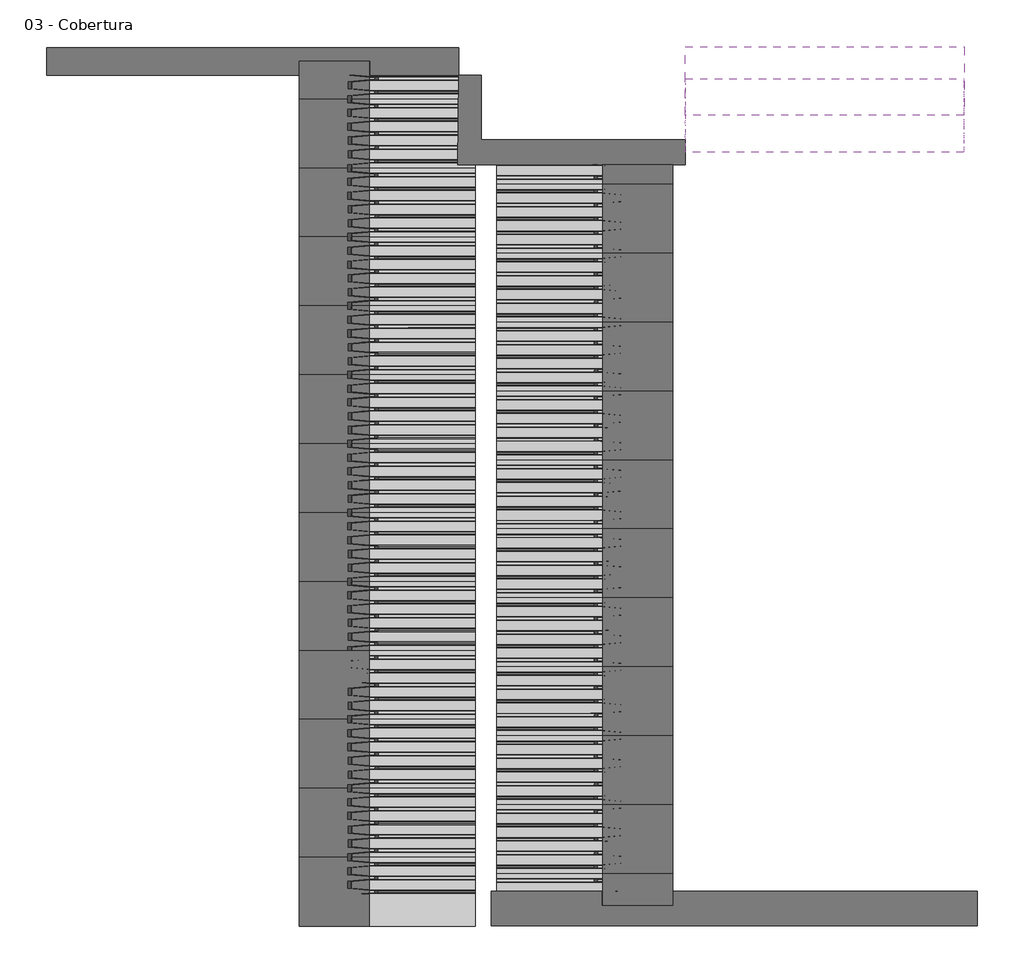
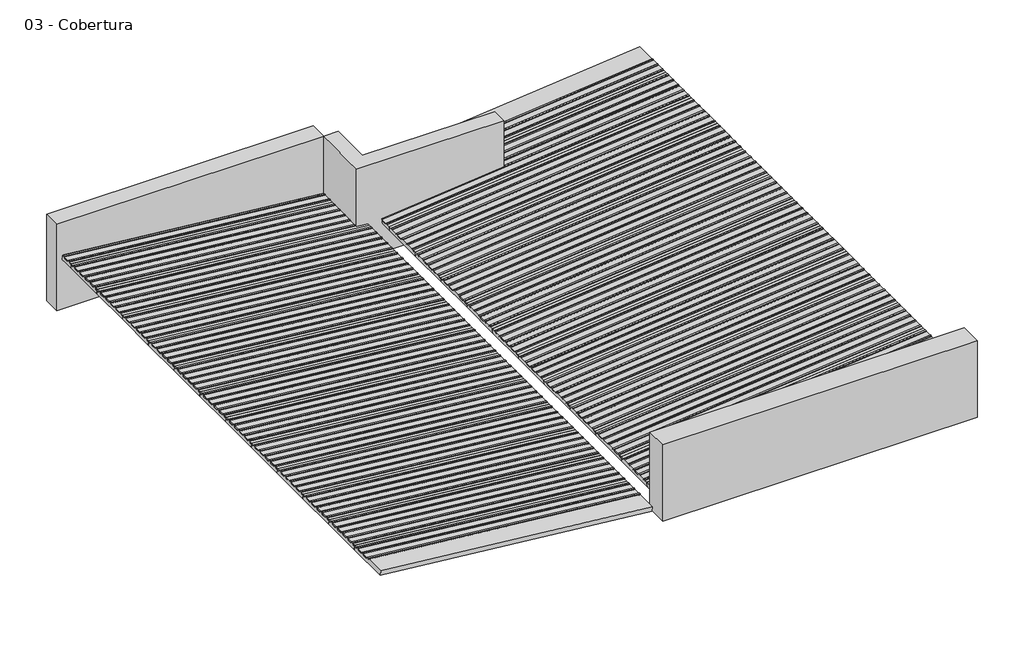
# One storey: 26 plates, 24 members, 3 proxies.
"""IFC4 building model written with IfcOpenShell, lengths in millimetres."""

from ifc_helpers import new_model, si_unit, frame, origin, place, context, project, spatial, polyline, outline, extrude, faceted_brep, transform, mapped, element, save
from components import rectangular_mullion_da0ee43c, rectangular_mullion_734f26e5, rectangular_mullion_4691f95d, empty_system_panel_vazio_dedfbf92, empty_system_panel_vazio_ec835984, empty_system_panel_vazio_4c0d4a5d, empty_system_panel_vazio_c402e9f3, empty_system_panel_vazio_1ed3ce67, empty_system_panel_vazio_27755461, empty_system_panel_vazio_4ffc9ecd, empty_system_panel_vazio_c31b6ba7

model = new_model("IFC4")

# Units and contexts
model_context = context("Model", 3, world=origin())
ifc_project = project(units=[si_unit("LENGTHUNIT", "METRE", prefix="MILLI")], contexts=[model_context])

# Site, building, storey
site = spatial("IfcSite", under=ifc_project)
building = spatial("IfcBuilding", under=site)
storey = spatial("IfcBuildingStorey", under=building, Name="03 - Cobertura", Elevation=5250.0)

# Proxies
placement = place(None, origin())
element("IfcBuildingElementProxy", 1, Name="Telha Metálica 04 : Telha Metálica 04", ObjectType="Telha Metálica 04 : Telha Metálica 04", at=placement, inside=storey, context=model_context, shape_type="SweptSolid", body=[
    extrude(outline(polyline([(35288.0559474, 12603.4881448), (35288.0559474, 12109.3390553), (28377.2522829, 12109.3390553), (28377.2522829, 12603.4881448), (35288.0559474, 12603.4881448)])), frame((0.0, 0.0, 5874.2276288), z_axis=(0.0, 0.0, 1.0), x_axis=(1.0, 0.0, 0.0)), (0.0, 0.0, 1.0), 1775.7723712),
])
element("IfcBuildingElementProxy", 2, Name="Telha Metálica 05 : Telha Metálica 05", ObjectType="Telha Metálica 05 : Telha Metálica 05", at=placement, inside=storey, context=model_context, shape_type="SweptSolid", body=[
    extrude(outline(polyline([(31135.4510067, 22933.0875158), (27896.5325969, 22933.0875158), (27911.4922793, 24203.2353441), (28231.4922793, 24203.2353441), (28231.4922793, 23283.2353441), (31135.4510067, 23283.2353441), (31135.4510067, 22933.0875158)])), frame((0.0, 0.0, 5525.9759325), z_axis=(0.0, 0.0, 1.0), x_axis=(1.0, 0.0, 0.0)), (0.0, 0.0, 1.0), 2124.0240675),
])
element("IfcBuildingElementProxy", 3, Name="Telha Metálica 12 : Telha Metálica 12", ObjectType="Telha Metálica 12 : Telha Metálica 12", at=placement, inside=storey, context=model_context, shape_type="SweptSolid", body=[
    extrude(outline(polyline([(27911.5028085, 24203.1812787), (22051.1496531, 24203.1812787), (22051.1496531, 24595.1469674), (27911.5028085, 24595.1469674), (27911.5028085, 24203.1812787)])), frame((0.0, 0.0, 5643.7783394), z_axis=(0.0, 0.0, 1.0), x_axis=(1.0, 0.0, 0.0)), (0.0, 0.0, 1.0), 2006.2216606),
])

# Members
element("IfcMember", 4, ObjectType="Rectangular Mullion : Telha Metálica - Trapezoidal", at=placement, inside=storey, context=model_context, shape_type="Brep", body=[
    faceted_brep([(22173.6255801, 23323.5556818, 6871.7592691), (22177.4096723, 23357.5225076, 6909.6001913), (22177.4124509, 23389.5224955, 6909.627978), (22175.4611164, 23407.0997222, 6890.1146322), (22175.1084678, 23403.5618279, 6886.5881462), (22176.9147384, 23387.2913076, 6904.6508527), (22176.912348, 23359.7624221, 6904.6269485), (22173.1282558, 23325.7955963, 6866.7860263), (22173.1195315, 23225.3245306, 6866.6987839), (22176.8977191, 23191.2913823, 6904.4806593), (22176.8953287, 23163.7624967, 6904.4567551), (22173.1112364, 23129.7956709, 6866.6158329), (22173.1025122, 23029.3246052, 6866.5285905), (22176.8806997, 22995.2914569, 6904.3104659), (22176.8783093, 22967.7625714, 6904.2865617), (22173.0942171, 22933.7957456, 6866.4456395), (22173.0854929, 22833.3246798, 6866.3583971), (22176.8636804, 22799.2915315, 6904.1402725), (22176.86129, 22771.762646, 6904.1163683), (22173.0771978, 22737.7958202, 6866.2754461), (22173.0684735, 22637.3247545, 6866.1882037), (22176.8466611, 22603.2916062, 6903.9700792), (22176.8442706, 22575.7627206, 6903.9461749), (22173.0601784, 22541.7958948, 6866.1052527), (22173.0514542, 22441.3248291, 6866.0180103), (22176.8296417, 22407.2916808, 6903.7998858), (22176.8272513, 22379.7627953, 6903.7759815), (22175.0202858, 22363.5430845, 6885.7063268), (22175.3723195, 22359.99901, 6889.2266632), (22177.3245756, 22377.5228808, 6908.7492243), (22177.3273542, 22409.5228686, 6908.777011), (22173.5491667, 22443.5560169, 6870.9951355), (22173.5575027, 22539.5559804, 6871.0784956), (22177.3415949, 22573.5228062, 6908.9194177), (22177.3443736, 22605.522794, 6908.9472044), (22173.566186, 22639.5559423, 6871.1653289), (22173.574522, 22735.5559057, 6871.248689), (22177.3586143, 22769.5227315, 6909.0896111), (22177.3613929, 22801.5227194, 6909.1173978), (22173.5832054, 22835.5558677, 6871.3355223), (22173.5915414, 22931.5558311, 6871.4188824), (22177.3756336, 22965.5226569, 6909.2598045), (22177.3784123, 22997.5226447, 6909.2875912), (22173.6002247, 23031.555793, 6871.5057157), (22173.6085607, 23127.5557565, 6871.5890757), (22177.3926529, 23161.5225823, 6909.4299979), (22177.3954316, 23193.5225701, 6909.4577846), (22173.6172441, 23227.5557184, 6871.6759091), (28143.5915414, 22931.5558311, 6274.4188824), (28143.5832054, 22835.5558677, 6274.3355223), (28147.3613929, 22801.5227194, 6312.1173978), (28147.3586143, 22769.5227315, 6312.0896111), (28143.574522, 22735.5559057, 6274.248689), (28143.566186, 22639.5559423, 6274.1653289), (28147.3443736, 22605.522794, 6311.9472044), (28147.3415949, 22573.5228062, 6311.9194177), (28143.5575027, 22539.5559804, 6274.0784956), (28143.5491667, 22443.5560169, 6273.9951355), (28147.3273542, 22409.5228686, 6311.777011), (28147.3245756, 22377.5228808, 6311.7492243), (28145.3723195, 22359.99901, 6292.2266632), (28145.0202858, 22363.5430845, 6288.7063268), (28146.8272513, 22379.7627953, 6306.7759815), (28146.8296417, 22407.2916808, 6306.7998858), (28143.0514542, 22441.3248291, 6269.0180103), (28143.0601784, 22541.7958948, 6269.1052527), (28146.8442706, 22575.7627206, 6306.9461749), (28146.8466611, 22603.2916062, 6306.9700792), (28143.0684735, 22637.3247545, 6269.1882037), (28143.0771978, 22737.7958202, 6269.2754461), (28146.86129, 22771.762646, 6307.1163683), (28146.8636804, 22799.2915315, 6307.1402725), (28143.0854929, 22833.3246798, 6269.3583971), (28143.0941556, 22933.0875158, 6269.4450245), (28143.7621795, 22933.0875158, 6276.1252638), (27901.1314944, 23323.5556818, 6299.0086777), (27901.5315525, 23357.5225076, 6337.1880033), (27901.9084454, 23389.5224955, 6337.1783786), (27902.1154683, 23407.0997222, 6317.449197), (27902.0737993, 23403.5618279, 6313.8916131), (27901.8821667, 23387.2913076, 6332.1541099), (27901.557934, 23359.7624221, 6332.1623899), (27901.1578759, 23325.7955963, 6293.9830643), (27899.9745371, 23225.3245306, 6294.0132833), (27899.5736979, 23191.2913823, 6332.2130615), (27899.2494652, 23163.7624967, 6332.2213414), (27898.8494071, 23129.7956709, 6294.0420158), (27897.6660683, 23029.3246052, 6294.0722348), (27897.2652291, 22995.2914569, 6332.272013), (27896.9409964, 22967.7625714, 6332.280293), (27896.5409383, 22933.7957456, 6294.1009674), (27896.5325969, 22933.0875158, 6294.1011804), (27896.5325969, 22933.0875158, 6300.8482221), (27896.9146149, 22965.5226569, 6337.3059064), (27897.2915078, 22997.5226447, 6337.2962817), (27897.692347, 23031.555793, 6299.0965035), (27898.8230256, 23127.5557565, 6299.0676293), (27899.2230837, 23161.5225823, 6337.2469548), (27899.5999766, 23193.5225701, 6337.2373301), (27900.0008158, 23227.5557184, 6299.0375519)], [[[0, 1, 2, 3, 4, 5, 6, 7, 8, 9, 10, 11, 12, 13, 14, 15, 16, 17, 18, 19, 20, 21, 22, 23, 24, 25, 26, 27, 28, 29, 30, 31, 32, 33, 34, 35, 36, 37, 38, 39, 40, 41, 42, 43, 44, 45, 46, 47]], [[48, 49, 50, 51, 52, 53, 54, 55, 56, 57, 58, 59, 60, 61, 62, 63, 64, 65, 66, 67, 68, 69, 70, 71, 72, 73, 74]], [[1, 0, 75, 76]], [[2, 1, 76, 77]], [[3, 2, 77, 78]], [[4, 3, 78, 79]], [[5, 4, 79, 80]], [[6, 5, 80, 81]], [[7, 6, 81, 82]], [[8, 7, 82, 83]], [[9, 8, 83, 84]], [[10, 9, 84, 85]], [[11, 10, 85, 86]], [[12, 11, 86, 87]], [[13, 12, 87, 88]], [[14, 13, 88, 89]], [[15, 14, 89, 90]], [[16, 15, 90, 91, 73, 72]], [[17, 16, 72, 71]], [[18, 17, 71, 70]], [[19, 18, 70, 69]], [[20, 19, 69, 68]], [[21, 20, 68, 67]], [[22, 21, 67, 66]], [[23, 22, 66, 65]], [[24, 23, 65, 64]], [[25, 24, 64, 63]], [[26, 25, 63, 62]], [[27, 26, 62, 61]], [[28, 27, 61, 60]], [[29, 28, 60, 59]], [[30, 29, 59, 58]], [[31, 30, 58, 57]], [[32, 31, 57, 56]], [[33, 32, 56, 55]], [[34, 33, 55, 54]], [[35, 34, 54, 53]], [[36, 35, 53, 52]], [[37, 36, 52, 51]], [[38, 37, 51, 50]], [[39, 38, 50, 49]], [[40, 39, 49, 48]], [[41, 40, 48, 74, 92, 93]], [[42, 41, 93, 94]], [[43, 42, 94, 95]], [[44, 43, 95, 96]], [[45, 44, 96, 97]], [[46, 45, 97, 98]], [[47, 46, 98, 99]], [[0, 47, 99, 75]], [[92, 91, 90, 89, 88, 87, 86, 85, 84, 83, 82, 81, 80, 79, 78, 77, 76, 75, 99, 98, 97, 96, 95, 94, 93]], [[91, 92, 74, 73]]]),
])
element("IfcMember", 5, ObjectType="Rectangular Mullion : Telha Metálica - Trapezoidal", at=placement, inside=storey, context=model_context, shape_type="Brep", body=[
    faceted_brep([(35095.5800205, 22211.4555207, 6938.4498986), (35091.7959283, 22177.4886949, 6976.2908207), (35091.7931496, 22145.4887071, 6976.3186074), (35093.7444842, 22127.9114804, 6956.8052616), (35094.0971328, 22131.4493747, 6953.2787757), (35092.2908622, 22147.7198949, 6971.3414822), (35092.2932526, 22175.2487805, 6971.3175779), (35096.0773448, 22209.2156063, 6933.4766557), (35096.0860691, 22309.686672, 6933.3894133), (35092.3078815, 22343.7198203, 6971.1712888), (35092.3102719, 22371.2487058, 6971.1473845), (35096.0943642, 22405.2155316, 6933.3064623), (35096.1030884, 22505.6865974, 6933.2192199), (35092.3249009, 22539.7197457, 6971.0010954), (35092.3272913, 22567.2486312, 6970.9771911), (35096.1113835, 22601.215457, 6933.1362689), (35096.1201077, 22701.6865227, 6933.0490265), (35092.3419202, 22735.719671, 6970.830902), (35092.3443106, 22763.2485566, 6970.8069977), (35096.1284028, 22797.2153824, 6932.9660755), (35096.1371271, 22897.6864481, 6932.8788331), (35092.3589395, 22931.7195964, 6970.6607086), (35092.36133, 22959.2484819, 6970.6368043), (35096.1454222, 22993.2153077, 6932.7958821), (35096.1541464, 23093.6863735, 6932.7086397), (35092.3759589, 23127.7195218, 6970.4905152), (35092.3783493, 23155.2484073, 6970.4666109), (35094.1853148, 23171.4681181, 6952.3969562), (35093.8332811, 23175.0121926, 6955.9172927), (35091.881025, 23157.4883218, 6975.4398538), (35091.8782463, 23125.4883339, 6975.4676405), (35095.6564339, 23091.4551856, 6937.685765), (35095.6480979, 22995.4552222, 6937.769125), (35091.8640057, 22961.4883964, 6975.6100472), (35091.861227, 22929.4884086, 6975.6378338), (35095.6394146, 22895.4552603, 6937.8559584), (35095.6310786, 22799.4552968, 6937.9393184), (35091.8469863, 22765.488471, 6975.7802406), (35091.8442077, 22733.4884832, 6975.8080272), (35095.6223952, 22699.4553349, 6938.0261518), (35095.6140592, 22603.4553715, 6938.1095118), (35091.829967, 22569.4885457, 6975.950434), (35091.8271883, 22537.4885578, 6975.9782206), (35095.6053759, 22503.4554095, 6938.1963451), (35095.5970399, 22407.4554461, 6938.2797052), (35091.8129477, 22373.4886203, 6976.1206274), (35091.810169, 22341.4886325, 6976.148414), (35095.5883565, 22307.4554842, 6938.3665385), (28458.6737262, 22211.4555207, 6274.7592691), (28458.6820622, 22307.4554842, 6274.6759091), (28454.9038747, 22341.4886325, 6312.4577846), (28454.9066534, 22373.4886203, 6312.4299979), (28458.6907456, 22407.4554461, 6274.5890757), (28458.6990816, 22503.4554095, 6274.5057157), (28454.920894, 22537.4885578, 6312.2875912), (28454.9236727, 22569.4885457, 6312.2598045), (28458.7077649, 22603.4553715, 6274.4188824), (28458.7161009, 22699.4553349, 6274.3355223), (28454.9379134, 22733.4884832, 6312.1173978), (28454.940692, 22765.488471, 6312.0896111), (28458.7247843, 22799.4552968, 6274.248689), (28458.7331203, 22895.4552603, 6274.1653289), (28454.9549327, 22929.4884086, 6311.9472044), (28454.9552452, 22933.0875158, 6311.9440792), (28455.452764, 22933.0875158, 6306.9688913), (28455.4526452, 22931.7195964, 6306.9700792), (28459.2308328, 22897.6864481, 6269.1882037), (28459.2221085, 22797.2153824, 6269.2754461), (28455.4380163, 22763.2485566, 6307.1163683), (28455.4356259, 22735.719671, 6307.1402725), (28459.2138134, 22701.6865227, 6269.3583971), (28459.2050892, 22601.215457, 6269.4456395), (28455.420997, 22567.2486312, 6307.2865617), (28455.4186066, 22539.7197457, 6307.3104659), (28459.1967941, 22505.6865974, 6269.5285905), (28459.1880699, 22405.2155316, 6269.6158329), (28455.4039776, 22371.2487058, 6307.4567551), (28455.4015872, 22343.7198203, 6307.4806593), (28459.1797748, 22309.686672, 6269.6987839), (28459.1710505, 22209.2156063, 6269.7860263), (28455.3869583, 22175.2487805, 6307.6269485), (28455.3845679, 22147.7198949, 6307.6508527), (28457.1908385, 22131.4493747, 6289.5881462), (28456.8381899, 22127.9114804, 6293.1146322), (28454.8868553, 22145.4887071, 6312.627978), (28454.889634, 22177.4886949, 6312.6001913), (31135.4510067, 22933.0875158, 6574.9687156), (31135.4510067, 22959.2484819, 6574.945772), (31135.4510067, 22993.2153077, 6536.7264406), (31135.4510067, 23093.6863735, 6536.6383257), (31135.4510067, 23127.7195218, 6574.79802), (31135.4510067, 23155.2484073, 6574.7738767), (31135.4510067, 23171.4681181, 6556.5235254), (31135.4510067, 23175.0121926, 6560.0790652), (31135.4510067, 23157.4883218, 6579.7968519), (31135.4510067, 23125.4883339, 6579.8249165), (31135.4510067, 23091.4551856, 6541.6652222), (31135.4510067, 22995.4552222, 6541.7494159), (31135.4510067, 22961.4883964, 6579.9687473), (31135.4510067, 22933.0875158, 6579.9936553)], [[[0, 1, 2, 3, 4, 5, 6, 7, 8, 9, 10, 11, 12, 13, 14, 15, 16, 17, 18, 19, 20, 21, 22, 23, 24, 25, 26, 27, 28, 29, 30, 31, 32, 33, 34, 35, 36, 37, 38, 39, 40, 41, 42, 43, 44, 45, 46, 47]], [[48, 49, 50, 51, 52, 53, 54, 55, 56, 57, 58, 59, 60, 61, 62, 63, 64, 65, 66, 67, 68, 69, 70, 71, 72, 73, 74, 75, 76, 77, 78, 79, 80, 81, 82, 83, 84, 85]], [[1, 0, 48, 85]], [[2, 1, 85, 84]], [[3, 2, 84, 83]], [[4, 3, 83, 82]], [[5, 4, 82, 81]], [[6, 5, 81, 80]], [[7, 6, 80, 79]], [[8, 7, 79, 78]], [[9, 8, 78, 77]], [[10, 9, 77, 76]], [[11, 10, 76, 75]], [[12, 11, 75, 74]], [[13, 12, 74, 73]], [[14, 13, 73, 72]], [[15, 14, 72, 71]], [[16, 15, 71, 70]], [[17, 16, 70, 69]], [[18, 17, 69, 68]], [[19, 18, 68, 67]], [[20, 19, 67, 66]], [[21, 20, 66, 65]], [[22, 21, 65, 64, 86, 87]], [[23, 22, 87, 88]], [[24, 23, 88, 89]], [[25, 24, 89, 90]], [[26, 25, 90, 91]], [[27, 26, 91, 92]], [[28, 27, 92, 93]], [[29, 28, 93, 94]], [[30, 29, 94, 95]], [[31, 30, 95, 96]], [[32, 31, 96, 97]], [[33, 32, 97, 98]], [[34, 33, 98, 99, 63, 62]], [[35, 34, 62, 61]], [[36, 35, 61, 60]], [[37, 36, 60, 59]], [[38, 37, 59, 58]], [[39, 38, 58, 57]], [[40, 39, 57, 56]], [[41, 40, 56, 55]], [[42, 41, 55, 54]], [[43, 42, 54, 53]], [[44, 43, 53, 52]], [[45, 44, 52, 51]], [[46, 45, 51, 50]], [[47, 46, 50, 49]], [[0, 47, 49, 48]], [[86, 99, 98, 97, 96, 95, 94, 93, 92, 91, 90, 89, 88, 87]], [[99, 86, 64, 63]]]),
])
element("IfcMember", 6, ObjectType="Rectangular Mullion : Telha Metálica - Trapezoidal", at=placement, inside=storey, context=model_context, shape_type="SweptSolid", body=[
    extrude(outline(polyline([(-310.0330432, -564.4513416), (-278.0330554, -564.4792669), (-244.0662296, -602.5089231), (-148.0662661, -602.5926988), (-114.0331178, -564.6223839), (-82.03313, -564.6503092), (-48.0663042, -602.6799653), (47.9336592, -602.7637411), (81.9668075, -564.7934261), (113.9667954, -564.8213514), (147.9336212, -602.8510076), (243.9335846, -602.9347833), (277.9667329, -564.9644684), (309.9667207, -564.9923937), (343.9335465, -603.0220498), (439.93351, -603.1058256), (473.9666583, -565.1355106), (505.9666461, -565.1634359), (523.4905169, -584.783367), (519.9464424, -588.3212613), (503.7267316, -570.1614831), (476.1978461, -570.1374597), (442.1646978, -608.1077746), (341.6936321, -608.020097), (307.7268063, -569.9904408), (280.1979207, -569.9664174), (246.1647724, -607.9367324), (145.6937067, -607.8490547), (111.7268809, -569.8193986), (84.1979954, -569.7953752), (50.1648471, -607.7656901), (-50.3062187, -607.6780125), (-84.2730445, -569.6483564), (-111.80193, -569.6243329), (-145.8350783, -607.5946479), (-246.306144, -607.5069702), (-280.2729698, -569.4773142), (-307.8018554, -569.4532907), (-339.6917518, -605.032409), (-339.6917518, -597.5411545), (-310.0330432, -564.4513416)])), frame((27963.8810416, 23863.4895269, 6898.0758014), z_axis=(-0.9950371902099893, 0.0, 0.09950371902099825), x_axis=(0.0, -1.0, 0.0)), (0.0, 0.0, 1.0), 5758.9009322),
])
element("IfcMember", 7, ObjectType="Rectangular Mullion : Telha Metálica - Trapezoidal", at=placement, inside=storey, context=model_context, shape_type="SweptSolid", body=[
    extrude(outline(polyline([(-244.0662296, -602.5089231), (-148.0662662, -602.5926988), (-114.0331179, -564.6223839), (-82.03313, -564.6503092), (-48.0663042, -602.6799652), (47.9336592, -602.7637411), (81.9668075, -564.7934261), (113.9667953, -564.8213514), (147.9336211, -602.8510075), (243.9335846, -602.9347833), (277.9667329, -564.9644684), (309.9667207, -564.9923937), (343.9335465, -603.0220497), (439.9335099, -603.1058256), (473.9666582, -565.1355106), (505.9666461, -565.1634359), (523.4905169, -584.783367), (519.9464424, -588.3212613), (503.7267316, -570.1614831), (476.1978461, -570.1374596), (442.1646978, -608.1077745), (341.693632, -608.020097), (307.7268062, -569.9904408), (280.1979207, -569.9664173), (246.1647724, -607.9367323), (145.6937067, -607.8490547), (111.7268809, -569.8193986), (84.1979953, -569.7953752), (50.164847, -607.76569), (-50.3062187, -607.6780125), (-84.2730445, -569.6483563), (-111.80193, -569.6243329), (-145.8350783, -607.5946478), (-246.3061441, -607.5069702), (-248.0335309, -605.5729677), (-248.0335309, -598.067086), (-244.0662296, -602.5089231)])), frame((28398.738867, 12851.5216757, 6874.1078616), z_axis=(0.9950371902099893, 0.0, 0.09950371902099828), x_axis=(0.0, 1.0, 0.0)), (0.0, 0.0, 1.0), 6670.0082767),
])
rectangular_mullion_shape = rectangular_mullion_da0ee43c(model_context)
element("IfcMember", 8, ObjectType="Rectangular Mullion : Telha Metálica - Trapezoidal", at=placement, inside=storey, context=model_context, shape_type="MappedRepresentation", body=[
    mapped(rectangular_mullion_shape, transform((22181.1496531, 13083.4895269, 6947.0), x_axis=(0.0, 1.0, 0.0), y_axis=(-0.09950371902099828, 0.0, -0.9950371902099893), z_axis=(-0.9950371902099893, 0.0, 0.09950371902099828))),
])
element("IfcMember", 9, ObjectType="Rectangular Mullion : Telha Metálica - Trapezoidal", at=placement, inside=storey, context=model_context, shape_type="MappedRepresentation", body=[
    mapped(rectangular_mullion_shape, transform((22181.1496531, 14063.4895269, 6947.0), x_axis=(0.0, 1.0, 0.0), y_axis=(-0.09950371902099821, 0.0, -0.9950371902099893), z_axis=(-0.9950371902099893, 0.0, 0.09950371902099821))),
])
element("IfcMember", 10, ObjectType="Rectangular Mullion : Telha Metálica - Trapezoidal", at=placement, inside=storey, context=model_context, shape_type="MappedRepresentation", body=[
    mapped(rectangular_mullion_shape, transform((22181.1496531, 15043.4895269, 6947.0), x_axis=(0.0, 1.0, 0.0), y_axis=(-0.09950371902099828, 0.0, -0.9950371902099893), z_axis=(-0.9950371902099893, 0.0, 0.09950371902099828))),
])
element("IfcMember", 11, ObjectType="Rectangular Mullion : Telha Metálica - Trapezoidal", at=placement, inside=storey, context=model_context, shape_type="MappedRepresentation", body=[
    mapped(rectangular_mullion_shape, transform((22181.1496531, 16023.4895269, 6947.0), x_axis=(0.0, 1.0, 0.0), y_axis=(-0.09950371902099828, 0.0, -0.9950371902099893), z_axis=(-0.9950371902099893, 0.0, 0.09950371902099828))),
])
element("IfcMember", 12, ObjectType="Rectangular Mullion : Telha Metálica - Trapezoidal", at=placement, inside=storey, context=model_context, shape_type="MappedRepresentation", body=[
    mapped(rectangular_mullion_shape, transform((22181.1496531, 17003.4895269, 6947.0), x_axis=(0.0, 1.0, 0.0), y_axis=(-0.09950371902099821, 0.0, -0.9950371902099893), z_axis=(-0.9950371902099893, 0.0, 0.09950371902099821))),
])
element("IfcMember", 13, ObjectType="Rectangular Mullion : Telha Metálica - Trapezoidal", at=placement, inside=storey, context=model_context, shape_type="MappedRepresentation", body=[
    mapped(rectangular_mullion_shape, transform((22181.1496531, 17983.4895269, 6947.0), x_axis=(0.0, 1.0, 0.0), y_axis=(-0.09950371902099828, 0.0, -0.9950371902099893), z_axis=(-0.9950371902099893, 0.0, 0.09950371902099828))),
])
element("IfcMember", 14, ObjectType="Rectangular Mullion : Telha Metálica - Trapezoidal", at=placement, inside=storey, context=model_context, shape_type="MappedRepresentation", body=[
    mapped(rectangular_mullion_shape, transform((22181.1496531, 18963.4895269, 6947.0), x_axis=(0.0, 1.0, 0.0), y_axis=(-0.09950371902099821, 0.0, -0.9950371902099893), z_axis=(-0.9950371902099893, 0.0, 0.09950371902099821))),
])
element("IfcMember", 15, ObjectType="Rectangular Mullion : Telha Metálica - Trapezoidal", at=placement, inside=storey, context=model_context, shape_type="MappedRepresentation", body=[
    mapped(rectangular_mullion_shape, transform((22181.1496531, 19943.4895269, 6947.0), x_axis=(0.0, 1.0, 0.0), y_axis=(-0.09950371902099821, 0.0, -0.9950371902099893), z_axis=(-0.9950371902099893, 0.0, 0.09950371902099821))),
])
element("IfcMember", 16, ObjectType="Rectangular Mullion : Telha Metálica - Trapezoidal", at=placement, inside=storey, context=model_context, shape_type="MappedRepresentation", body=[
    mapped(rectangular_mullion_shape, transform((22181.1496531, 20923.4895269, 6947.0), x_axis=(0.0, 1.0, 0.0), y_axis=(-0.09950371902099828, 0.0, -0.9950371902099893), z_axis=(-0.9950371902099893, 0.0, 0.09950371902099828))),
])
element("IfcMember", 17, ObjectType="Rectangular Mullion : Telha Metálica - Trapezoidal", at=placement, inside=storey, context=model_context, shape_type="MappedRepresentation", body=[
    mapped(rectangular_mullion_shape, transform((22181.1496531, 21903.4895269, 6947.0), x_axis=(0.0, 1.0, 0.0), y_axis=(-0.09950371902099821, 0.0, -0.9950371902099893), z_axis=(-0.9950371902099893, 0.0, 0.09950371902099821))),
])
rectangular_mullion_2_shape = rectangular_mullion_734f26e5(model_context)
element("IfcMember", 18, ObjectType="Rectangular Mullion : Telha Metálica - Trapezoidal", at=placement, inside=storey, context=model_context, shape_type="MappedRepresentation", body=[
    mapped(rectangular_mullion_2_shape, transform((35088.0559474, 21671.5216757, 7013.6906294), x_axis=(0.0, -1.0, 0.0), y_axis=(0.09950371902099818, 0.0, -0.9950371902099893), z_axis=(0.9950371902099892, 0.0, 0.09950371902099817))),
])
element("IfcMember", 19, ObjectType="Rectangular Mullion : Telha Metálica - Trapezoidal", at=placement, inside=storey, context=model_context, shape_type="MappedRepresentation", body=[
    mapped(rectangular_mullion_2_shape, transform((35088.0559474, 20691.5216757, 7013.6906294), x_axis=(0.0, -1.0, 0.0), y_axis=(0.09950371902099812, 0.0, -0.9950371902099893), z_axis=(0.9950371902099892, 0.0, 0.09950371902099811))),
])
element("IfcMember", 20, ObjectType="Rectangular Mullion : Telha Metálica - Trapezoidal", at=placement, inside=storey, context=model_context, shape_type="MappedRepresentation", body=[
    mapped(rectangular_mullion_2_shape, transform((35088.0559474, 19711.5216757, 7013.6906294), x_axis=(0.0, -1.0, 0.0), y_axis=(0.09950371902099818, 0.0, -0.9950371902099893), z_axis=(0.9950371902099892, 0.0, 0.09950371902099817))),
])
element("IfcMember", 21, ObjectType="Rectangular Mullion : Telha Metálica - Trapezoidal", at=placement, inside=storey, context=model_context, shape_type="MappedRepresentation", body=[
    mapped(rectangular_mullion_2_shape, transform((35088.0559474, 18731.5216757, 7013.6906294), x_axis=(0.0, -1.0, 0.0), y_axis=(0.09950371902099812, 0.0, -0.9950371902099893), z_axis=(0.9950371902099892, 0.0, 0.09950371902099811))),
])
element("IfcMember", 22, ObjectType="Rectangular Mullion : Telha Metálica - Trapezoidal", at=placement, inside=storey, context=model_context, shape_type="MappedRepresentation", body=[
    mapped(rectangular_mullion_2_shape, transform((35088.0559474, 17751.5216757, 7013.6906294), x_axis=(0.0, -1.0, 0.0), y_axis=(0.09950371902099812, 0.0, -0.9950371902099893), z_axis=(0.9950371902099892, 0.0, 0.09950371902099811))),
])
element("IfcMember", 23, ObjectType="Rectangular Mullion : Telha Metálica - Trapezoidal", at=placement, inside=storey, context=model_context, shape_type="MappedRepresentation", body=[
    mapped(rectangular_mullion_2_shape, transform((35088.0559474, 16771.5216757, 7013.6906294), x_axis=(0.0, -1.0, 0.0), y_axis=(0.09950371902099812, 0.0, -0.9950371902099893), z_axis=(0.9950371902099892, 0.0, 0.09950371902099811))),
])
element("IfcMember", 24, ObjectType="Rectangular Mullion : Telha Metálica - Trapezoidal", at=placement, inside=storey, context=model_context, shape_type="MappedRepresentation", body=[
    mapped(rectangular_mullion_2_shape, transform((35088.0559474, 15791.5216757, 7013.6906294), x_axis=(0.0, -1.0, 0.0), y_axis=(0.09950371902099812, 0.0, -0.9950371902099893), z_axis=(0.9950371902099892, 0.0, 0.09950371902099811))),
])
element("IfcMember", 25, ObjectType="Rectangular Mullion : Telha Metálica - Trapezoidal", at=placement, inside=storey, context=model_context, shape_type="MappedRepresentation", body=[
    mapped(rectangular_mullion_2_shape, transform((35088.0559474, 14811.5216757, 7013.6906294), x_axis=(0.0, -1.0, 0.0), y_axis=(0.09950371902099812, 0.0, -0.9950371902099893), z_axis=(0.9950371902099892, 0.0, 0.09950371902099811))),
])
element("IfcMember", 26, ObjectType="Rectangular Mullion : Telha Metálica - Trapezoidal", at=placement, inside=storey, context=model_context, shape_type="MappedRepresentation", body=[
    mapped(rectangular_mullion_2_shape, transform((35088.0559474, 13831.5216757, 7013.6906294), x_axis=(0.0, -1.0, 0.0), y_axis=(0.09950371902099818, 0.0, -0.9950371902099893), z_axis=(0.9950371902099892, 0.0, 0.09950371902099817))),
])
rectangular_mullion_3_shape = rectangular_mullion_4691f95d(model_context)
element("IfcMember", 27, ObjectType="Rectangular Mullion : Telha Metálica - Trapezoidal", at=placement, inside=storey, context=model_context, shape_type="MappedRepresentation", body=[
    mapped(rectangular_mullion_3_shape, transform((35088.0559474, 23631.5216757, 7013.6906294), x_axis=(0.0, -1.0, 0.0), y_axis=(0.09950371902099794, 0.0, -0.9950371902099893), z_axis=(0.9950371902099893, 0.0, 0.09950371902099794))),
])

# Plates
empty_system_panel_vazio_shape = empty_system_panel_vazio_dedfbf92(model_context)
element("IfcPlate", 28, ObjectType="Empty System Panel : Vazio", at=placement, inside=storey, context=model_context, shape_type="MappedRepresentation", body=[
    mapped(empty_system_panel_vazio_shape, transform((28151.1496531, 12593.4895267, 6350.0), x_axis=(0.0, 1.0, 0.0), y_axis=(-0.09950371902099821, 0.0, -0.9950371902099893), z_axis=(-0.9950371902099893, 0.0, 0.09950371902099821))),
])
empty_system_panel_vazio_2_shape = empty_system_panel_vazio_ec835984(model_context)
element("IfcPlate", 29, ObjectType="Empty System Panel : Vazio", at=placement, inside=storey, context=model_context, shape_type="MappedRepresentation", body=[
    mapped(empty_system_panel_vazio_2_shape, transform((28151.1496531, 13573.4895269, 6350.0), x_axis=(0.0, 1.0, 0.0), y_axis=(-0.09950371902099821, 0.0, -0.9950371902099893), z_axis=(-0.9950371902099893, 0.0, 0.09950371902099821))),
])
element("IfcPlate", 30, ObjectType="Empty System Panel : Vazio", at=placement, inside=storey, context=model_context, shape_type="MappedRepresentation", body=[
    mapped(empty_system_panel_vazio_2_shape, transform((28151.1496531, 14553.4895269, 6350.0), x_axis=(0.0, 1.0, 0.0), y_axis=(-0.09950371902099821, 0.0, -0.9950371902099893), z_axis=(-0.9950371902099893, 0.0, 0.09950371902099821))),
])
element("IfcPlate", 31, ObjectType="Empty System Panel : Vazio", at=placement, inside=storey, context=model_context, shape_type="MappedRepresentation", body=[
    mapped(empty_system_panel_vazio_2_shape, transform((28151.1496531, 15533.4895269, 6350.0), x_axis=(0.0, 1.0, 0.0), y_axis=(-0.09950371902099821, 0.0, -0.9950371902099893), z_axis=(-0.9950371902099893, 0.0, 0.09950371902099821))),
])
element("IfcPlate", 32, ObjectType="Empty System Panel : Vazio", at=placement, inside=storey, context=model_context, shape_type="MappedRepresentation", body=[
    mapped(empty_system_panel_vazio_2_shape, transform((28151.1496531, 16513.4895269, 6350.0), x_axis=(0.0, 1.0, 0.0), y_axis=(-0.09950371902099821, 0.0, -0.9950371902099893), z_axis=(-0.9950371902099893, 0.0, 0.09950371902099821))),
])
element("IfcPlate", 33, ObjectType="Empty System Panel : Vazio", at=placement, inside=storey, context=model_context, shape_type="MappedRepresentation", body=[
    mapped(empty_system_panel_vazio_2_shape, transform((28151.1496531, 17493.4895269, 6350.0), x_axis=(0.0, 1.0, 0.0), y_axis=(-0.09950371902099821, 0.0, -0.9950371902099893), z_axis=(-0.9950371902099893, 0.0, 0.09950371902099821))),
])
element("IfcPlate", 34, ObjectType="Empty System Panel : Vazio", at=placement, inside=storey, context=model_context, shape_type="MappedRepresentation", body=[
    mapped(empty_system_panel_vazio_2_shape, transform((28151.1496531, 18473.4895269, 6350.0), x_axis=(0.0, 1.0, 0.0), y_axis=(-0.09950371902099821, 0.0, -0.9950371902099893), z_axis=(-0.9950371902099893, 0.0, 0.09950371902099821))),
])
element("IfcPlate", 35, ObjectType="Empty System Panel : Vazio", at=placement, inside=storey, context=model_context, shape_type="MappedRepresentation", body=[
    mapped(empty_system_panel_vazio_2_shape, transform((28151.1496531, 19453.4895269, 6350.0), x_axis=(0.0, 1.0, 0.0), y_axis=(-0.09950371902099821, 0.0, -0.9950371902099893), z_axis=(-0.9950371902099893, 0.0, 0.09950371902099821))),
])
element("IfcPlate", 36, ObjectType="Empty System Panel : Vazio", at=placement, inside=storey, context=model_context, shape_type="MappedRepresentation", body=[
    mapped(empty_system_panel_vazio_2_shape, transform((28151.1496531, 20433.4895269, 6350.0), x_axis=(0.0, 1.0, 0.0), y_axis=(-0.09950371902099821, 0.0, -0.9950371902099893), z_axis=(-0.9950371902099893, 0.0, 0.09950371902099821))),
])
element("IfcPlate", 37, ObjectType="Empty System Panel : Vazio", at=placement, inside=storey, context=model_context, shape_type="MappedRepresentation", body=[
    mapped(empty_system_panel_vazio_2_shape, transform((28151.1496531, 21413.4895269, 6350.0), x_axis=(0.0, 1.0, 0.0), y_axis=(-0.09950371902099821, 0.0, -0.9950371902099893), z_axis=(-0.9950371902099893, 0.0, 0.09950371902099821))),
])
element("IfcPlate", 38, ObjectType="Empty System Panel : Vazio", at=placement, inside=storey, context=model_context, shape_type="MappedRepresentation", body=[
    mapped(empty_system_panel_vazio_2_shape, transform((28151.1496531, 22393.4895269, 6350.0), x_axis=(0.0, 1.0, 0.0), y_axis=(-0.09950371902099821, 0.0, -0.9950371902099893), z_axis=(-0.9950371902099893, 0.0, 0.09950371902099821))),
])
empty_system_panel_vazio_3_shape = empty_system_panel_vazio_4c0d4a5d(model_context)
element("IfcPlate", 39, ObjectType="Empty System Panel : Vazio", at=placement, inside=storey, context=model_context, shape_type="MappedRepresentation", body=[
    mapped(empty_system_panel_vazio_3_shape, transform((28451.1496531, 22161.5216757, 6350.0), x_axis=(0.0, -1.0, 0.0), y_axis=(0.09950371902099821, 0.0, -0.9950371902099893), z_axis=(0.9950371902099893, 0.0, 0.09950371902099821))),
])
element("IfcPlate", 40, ObjectType="Empty System Panel : Vazio", at=placement, inside=storey, context=model_context, shape_type="MappedRepresentation", body=[
    mapped(empty_system_panel_vazio_3_shape, transform((28451.1496531, 21181.5216757, 6350.0), x_axis=(0.0, -1.0, 0.0), y_axis=(0.09950371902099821, 0.0, -0.9950371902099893), z_axis=(0.9950371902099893, 0.0, 0.09950371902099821))),
])
element("IfcPlate", 41, ObjectType="Empty System Panel : Vazio", at=placement, inside=storey, context=model_context, shape_type="MappedRepresentation", body=[
    mapped(empty_system_panel_vazio_3_shape, transform((28451.1496531, 20201.5216757, 6350.0), x_axis=(0.0, -1.0, 0.0), y_axis=(0.09950371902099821, 0.0, -0.9950371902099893), z_axis=(0.9950371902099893, 0.0, 0.09950371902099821))),
])
element("IfcPlate", 42, ObjectType="Empty System Panel : Vazio", at=placement, inside=storey, context=model_context, shape_type="MappedRepresentation", body=[
    mapped(empty_system_panel_vazio_3_shape, transform((28451.1496531, 19221.5216757, 6350.0), x_axis=(0.0, -1.0, 0.0), y_axis=(0.09950371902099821, 0.0, -0.9950371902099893), z_axis=(0.9950371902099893, 0.0, 0.09950371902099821))),
])
element("IfcPlate", 43, ObjectType="Empty System Panel : Vazio", at=placement, inside=storey, context=model_context, shape_type="MappedRepresentation", body=[
    mapped(empty_system_panel_vazio_3_shape, transform((28451.1496531, 18241.5216757, 6350.0), x_axis=(0.0, -1.0, 0.0), y_axis=(0.09950371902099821, 0.0, -0.9950371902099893), z_axis=(0.9950371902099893, 0.0, 0.09950371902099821))),
])
element("IfcPlate", 44, ObjectType="Empty System Panel : Vazio", at=placement, inside=storey, context=model_context, shape_type="MappedRepresentation", body=[
    mapped(empty_system_panel_vazio_3_shape, transform((28451.1496531, 17261.5216757, 6350.0), x_axis=(0.0, -1.0, 0.0), y_axis=(0.09950371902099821, 0.0, -0.9950371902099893), z_axis=(0.9950371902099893, 0.0, 0.09950371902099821))),
])
element("IfcPlate", 45, ObjectType="Empty System Panel : Vazio", at=placement, inside=storey, context=model_context, shape_type="MappedRepresentation", body=[
    mapped(empty_system_panel_vazio_3_shape, transform((28451.1496531, 16281.5216757, 6350.0), x_axis=(0.0, -1.0, 0.0), y_axis=(0.09950371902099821, 0.0, -0.9950371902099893), z_axis=(0.9950371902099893, 0.0, 0.09950371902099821))),
])
element("IfcPlate", 46, ObjectType="Empty System Panel : Vazio", at=placement, inside=storey, context=model_context, shape_type="MappedRepresentation", body=[
    mapped(empty_system_panel_vazio_3_shape, transform((28451.1496531, 15301.5216757, 6350.0), x_axis=(0.0, -1.0, 0.0), y_axis=(0.09950371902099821, 0.0, -0.9950371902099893), z_axis=(0.9950371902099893, 0.0, 0.09950371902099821))),
])
element("IfcPlate", 47, ObjectType="Empty System Panel : Vazio", at=placement, inside=storey, context=model_context, shape_type="MappedRepresentation", body=[
    mapped(empty_system_panel_vazio_3_shape, transform((28451.1496531, 14321.5216757, 6350.0), x_axis=(0.0, -1.0, 0.0), y_axis=(0.09950371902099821, 0.0, -0.9950371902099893), z_axis=(0.9950371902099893, 0.0, 0.09950371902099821))),
])
element("IfcPlate", 48, ObjectType="Empty System Panel : Vazio", at=placement, inside=storey, context=model_context, shape_type="MappedRepresentation", body=[
    mapped(empty_system_panel_vazio_3_shape, transform((28451.1496531, 13341.5216757, 6350.0), x_axis=(0.0, -1.0, 0.0), y_axis=(0.09950371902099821, 0.0, -0.9950371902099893), z_axis=(0.9950371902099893, 0.0, 0.09950371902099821))),
])
empty_system_panel_vazio_4_shape = empty_system_panel_vazio_c402e9f3(model_context)
element("IfcPlate", 49, ObjectType="Empty System Panel : Vazio", at=placement, inside=storey, context=model_context, shape_type="MappedRepresentation", body=[
    mapped(empty_system_panel_vazio_4_shape, transform((28151.1496531, 23373.4895269, 6350.0), x_axis=(0.0, 1.0, 0.0), y_axis=(-0.09950371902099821, 0.0, -0.9950371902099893), z_axis=(-0.9950371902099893, 0.0, 0.09950371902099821))),
])
empty_system_panel_vazio_5_shape = empty_system_panel_vazio_1ed3ce67(model_context)
element("IfcPlate", 50, ObjectType="Empty System Panel : Vazio", at=placement, inside=storey, context=model_context, shape_type="MappedRepresentation", body=[
    mapped(empty_system_panel_vazio_5_shape, transform((27911.4976549, 24133.4051802, 6373.9651998), x_axis=(0.0, 1.0, 0.0), y_axis=(-0.09950371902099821, 0.0, -0.9950371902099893), z_axis=(-0.9950371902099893, 0.0, 0.09950371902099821))),
])
empty_system_panel_vazio_6_shape = empty_system_panel_vazio_27755461(model_context)
element("IfcPlate", 51, ObjectType="Empty System Panel : Vazio", at=placement, inside=storey, context=model_context, shape_type="MappedRepresentation", body=[
    mapped(empty_system_panel_vazio_6_shape, transform((31131.1966822, 24121.5216758, 6618.0047029), x_axis=(0.0, -1.0, 0.0), y_axis=(0.09950371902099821, 0.0, -0.9950371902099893), z_axis=(0.9950371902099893, 0.0, 0.09950371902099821))),
])
empty_system_panel_vazio_7_shape = empty_system_panel_vazio_4ffc9ecd(model_context)
element("IfcPlate", 52, ObjectType="Empty System Panel : Vazio", at=placement, inside=storey, context=model_context, shape_type="MappedRepresentation", body=[
    mapped(empty_system_panel_vazio_7_shape, transform((28451.1496531, 23141.5216757, 6350.0), x_axis=(0.0, -1.0, 0.0), y_axis=(0.09950371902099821, 0.0, -0.9950371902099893), z_axis=(0.9950371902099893, 0.0, 0.09950371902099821))),
])
empty_system_panel_vazio_8_shape = empty_system_panel_vazio_c31b6ba7(model_context)
element("IfcPlate", 53, ObjectType="Empty System Panel : Vazio", at=placement, inside=storey, context=model_context, shape_type="MappedRepresentation", body=[
    mapped(empty_system_panel_vazio_8_shape, transform((28451.1496531, 12627.4660222, 6350.0), x_axis=(0.0, -1.0, 0.0), y_axis=(0.09950371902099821, 0.0, -0.9950371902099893), z_axis=(0.9950371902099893, 0.0, 0.09950371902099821))),
])

save(model, "model.ifc")
